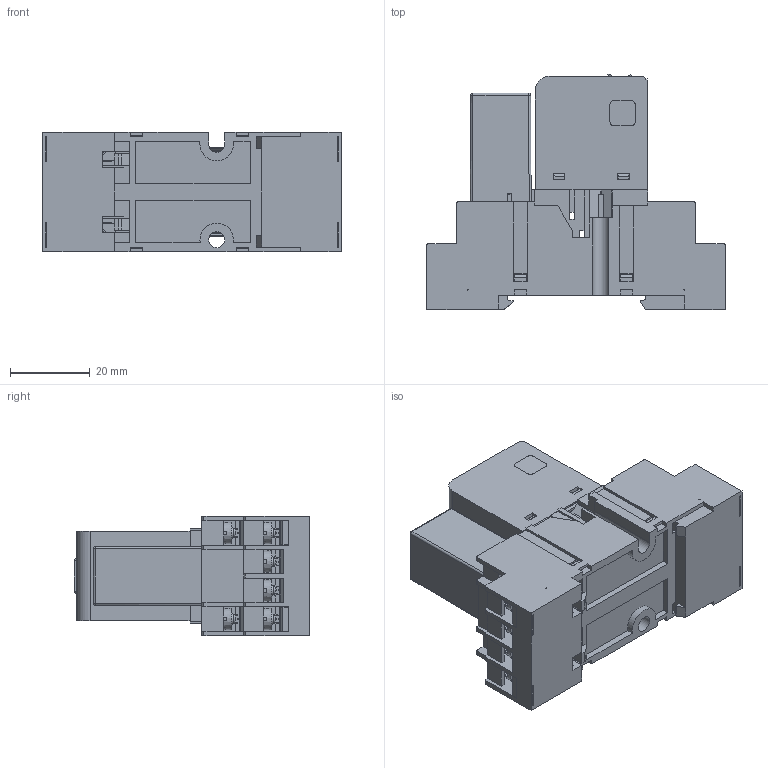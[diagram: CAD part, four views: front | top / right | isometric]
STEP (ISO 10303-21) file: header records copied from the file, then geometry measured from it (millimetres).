
FILE_DESCRIPTION(('STEP AP214'), '1');
FILE_NAME('Ðåëå ìîäóëüíîå ÐÏ30Õ-220-Ì30-ÕÕ (íà ïîêàç)', '', ('UNSPECIFIED'), ('UNSPECIFIED'), 'ASCON STEP Converter 1.6', 'ASCON Math Kernel', '');
FILE_SCHEMA(('AUTOMOTIVE_DESIGN { 1 0 10303 214 3 1 1}'));
Length unit declared in the file: millimetre
Bounding box: 74.9 x 59 x 30 mm (x, y, z)
Volume: 21945.7 mm3; surface area: 39722.3 mm2
Topology: 14 solids, 14 shells, 3251 faces, 9222 edges, 5910 vertices
Faces by surface type: plane 2421, cylinder 511, torus 140, bspline 108, cone 71
Full cylindrical faces by diameter (mm): 0.6 x2, 2.3 x10, 3 x21, 3.54 x10, 4 x1, 4.5 x14
Entity records: 148705 total; most frequent: CARTESIAN_POINT 40643, ORIENTED_EDGE 18218, DIRECTION 15193, EDGE_CURVE 9109, LINE 6589, VECTOR 6589, VERTEX_POINT 5910, AXIS2_PLACEMENT_3D 4302
